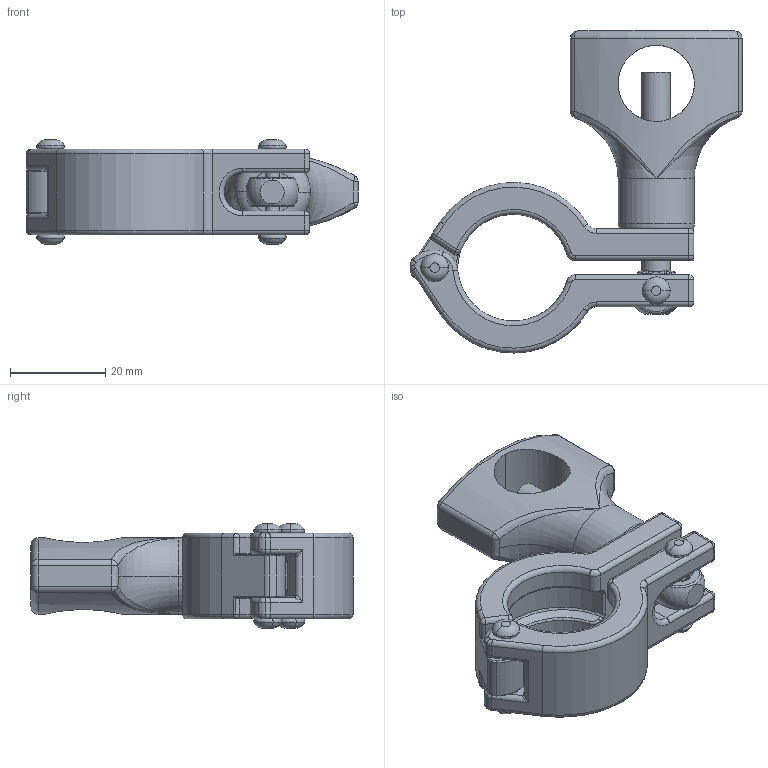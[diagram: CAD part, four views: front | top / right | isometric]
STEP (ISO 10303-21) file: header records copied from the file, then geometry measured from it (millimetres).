
FILE_DESCRIPTION (( 'STEP AP203' ), '1' );
FILE_NAME ('13MHHM.75-H.STEP', '2024-06-19T08:41:00', ( '' ), ( '' ), 'SwSTEP 2.0', 'SolidWorks 2014', '' );
FILE_SCHEMA (( 'CONFIG_CONTROL_DESIGN' ));
Length unit declared in the file: millimetre
Products named in the file (15): Wing Nut 14; CLAMP.75-2-2024; 13MHHM-PART-4; 13MHHM-PARTS-6-2.75; CLAMP.75-1-2024; 13MHHM-PARTS-6-1.75; 13MHHM.75-H
Assembly tree (8 placements, depth 2):
  CLAMP.75-2-2024
  13MHHM-PART-4
  13MHHM-PARTS-6-2.75
  Wing Nut 14
  CLAMP.75-1-2024
Bounding box: 69.68 x 67.59 x 22 mm (x, y, z)
Volume: 24562.8 mm3; surface area: 13768.4 mm2
Topology: 8 solids, 8 shells, 395 faces, 915 edges, 499 vertices
Faces by surface type: cylinder 131, torus 106, bspline 76, plane 49, sphere 28, cone 5
Entity records: 14032 total; most frequent: CARTESIAN_POINT 4668, DIRECTION 1760, ORIENTED_EDGE 1662, EDGE_CURVE 831, AXIS2_PLACEMENT_3D 782, CIRCLE 472, VERTEX_POINT 471, EDGE_LOOP 392
